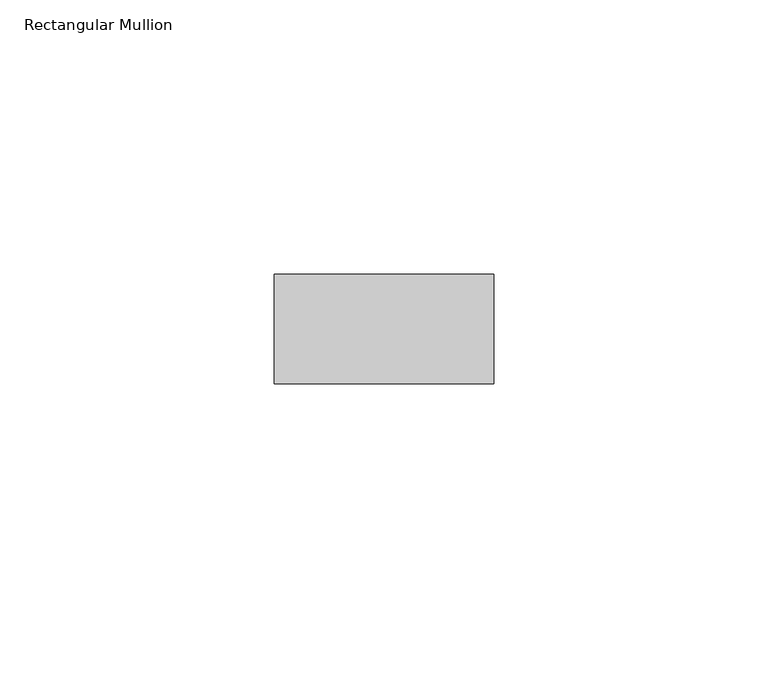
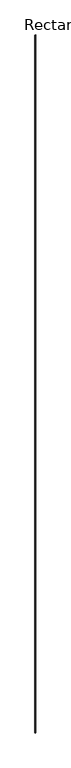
"""IFC4 building model written with IfcOpenShell, lengths in millimetres: member geometry, Rectangular Mullion : RIPA 4x2 cm."""

from ifc_helpers import new_model, si_unit, frame, origin, place, context, project, spatial, polyline, outline, extrude, source, transform, mapped, element, save


def rectangular_mullion_cb0b4bce(model_context):
    return source(origin(), model_context, "Body", "SweptSolid", [
        extrude(outline(polyline([(20.0, 0.0), (20.0, -20.0), (-20.0, -20.0), (-20.0, 0.0), (20.0, 0.0)])), frame((0.0, 0.0, -40192.8163144), z_axis=(0.0, 0.0, 1.0), x_axis=(1.0, 0.0, 0.0)), (0.0, 0.0, 1.0), 40192.8163144),
    ])


if __name__ == "__main__":
    model = new_model("IFC4")
    model_context = context("Model", 3, world=origin())
    ifc_project = project(units=[si_unit("LENGTHUNIT", "METRE", prefix="MILLI")], contexts=[model_context])
    site = spatial("IfcSite", under=ifc_project)
    building = spatial("IfcBuilding", under=site)
    placement = place(None, origin())
    rectangular_mullion_shape = rectangular_mullion_cb0b4bce(model_context)
    element("IfcMember", 1, ObjectType="Rectangular Mullion : RIPA 4x2 cm", at=placement, inside=building, context=model_context, shape_type="MappedRepresentation", body=[
        mapped(rectangular_mullion_shape, transform((0.0, 0.0, 0.0), x_axis=(1.0, 0.0, 0.0), y_axis=(0.0, 1.0, 0.0), z_axis=(0.0, 0.0, 1.0))),
    ])
    save(model, "model.ifc")
